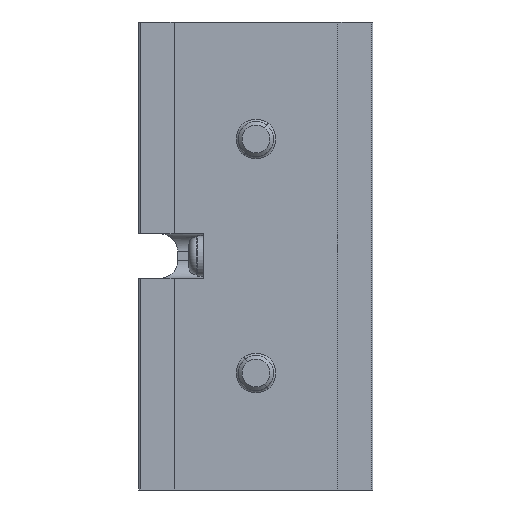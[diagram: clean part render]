
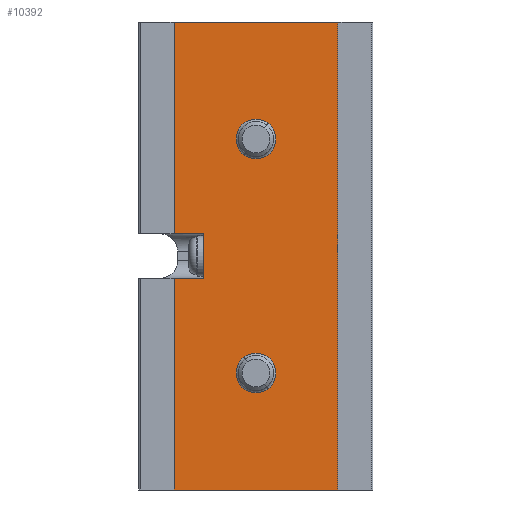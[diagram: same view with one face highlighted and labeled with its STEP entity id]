
A CAD part, front view. The second image highlights one B-rep face of the part: STEP entity #10392.
In plain terms, the highlighted planar face has unit normal (0, -1, 0).
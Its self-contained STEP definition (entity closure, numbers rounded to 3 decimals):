
#73 = VECTOR ( 'NONE', #5531, 1000. ) ;
#110 = EDGE_CURVE ( 'NONE', #7493, #1896, #6280, .T. ) ;
#632 = CARTESIAN_POINT ( 'NONE',  ( 3., 0.05, 40. ) ) ;
#743 = LINE ( 'NONE', #7516, #8837 ) ;
#745 = CARTESIAN_POINT ( 'NONE',  ( 10., 0.05, 8.3 ) ) ;
#780 = ORIENTED_EDGE ( 'NONE', *, *, #6305, .F. ) ;
#803 = DIRECTION ( 'NONE',  ( -1., 0., 0. ) ) ;
#1079 = LINE ( 'NONE', #4342, #6170 ) ;
#1086 = CARTESIAN_POINT ( 'NONE',  ( 3., 0.05, 21.9 ) ) ;
#1097 = AXIS2_PLACEMENT_3D ( 'NONE', #6689, #3205, #1670 ) ;
#1123 = EDGE_LOOP ( 'NONE', ( #9733, #6336 ) ) ;
#1254 = ORIENTED_EDGE ( 'NONE', *, *, #8952, .T. ) ;
#1305 = AXIS2_PLACEMENT_3D ( 'NONE', #9648, #1432, #3995 ) ;
#1432 = DIRECTION ( 'NONE',  ( 0., 1., 0. ) ) ;
#1447 = CARTESIAN_POINT ( 'NONE',  ( 5.5, 0.05, 18.1 ) ) ;
#1469 = AXIS2_PLACEMENT_3D ( 'NONE', #9573, #8165, #10521 ) ;
#1643 = EDGE_CURVE ( 'NONE', #10283, #8075, #2305, .T. ) ;
#1670 = DIRECTION ( 'NONE',  ( -1., 0., 0. ) ) ;
#1896 = VERTEX_POINT ( 'NONE', #3104 ) ;
#1936 = VERTEX_POINT ( 'NONE', #1447 ) ;
#2021 = DIRECTION ( 'NONE',  ( 1., 0., 0. ) ) ;
#2181 = DIRECTION ( 'NONE',  ( 1., 0., 0. ) ) ;
#2305 = CIRCLE ( 'NONE', #10208, 1.7 ) ;
#2341 = ORIENTED_EDGE ( 'NONE', *, *, #2469, .T. ) ;
#2373 = VERTEX_POINT ( 'NONE', #10028 ) ;
#2462 = CIRCLE ( 'NONE', #1097, 1.7 ) ;
#2469 = EDGE_CURVE ( 'NONE', #7493, #3089, #5178, .T. ) ;
#2585 = CARTESIAN_POINT ( 'NONE',  ( 3., 0.05, 0. ) ) ;
#2865 = CARTESIAN_POINT ( 'NONE',  ( 17., 0.05, 40. ) ) ;
#2871 = CARTESIAN_POINT ( 'NONE',  ( 3., 0.05, 40. ) ) ;
#2905 = CARTESIAN_POINT ( 'NONE',  ( 10., 0.05, 11.7 ) ) ;
#3089 = VERTEX_POINT ( 'NONE', #1086 ) ;
#3104 = CARTESIAN_POINT ( 'NONE',  ( 17., 0.05, 40. ) ) ;
#3115 = VERTEX_POINT ( 'NONE', #2905 ) ;
#3200 = FACE_BOUND ( 'NONE', #5256, .T. ) ;
#3205 = DIRECTION ( 'NONE',  ( 0., 1., 0. ) ) ;
#3234 = VERTEX_POINT ( 'NONE', #745 ) ;
#3295 = VECTOR ( 'NONE', #2021, 1000. ) ;
#3517 = AXIS2_PLACEMENT_3D ( 'NONE', #7811, #6325, #6135 ) ;
#3656 = VECTOR ( 'NONE', #8723, 1000. ) ;
#3959 = LINE ( 'NONE', #4072, #73 ) ;
#3995 = DIRECTION ( 'NONE',  ( -1., 0., 0. ) ) ;
#4048 = VERTEX_POINT ( 'NONE', #6326 ) ;
#4072 = CARTESIAN_POINT ( 'NONE',  ( 17., 0.05, 0. ) ) ;
#4284 = DIRECTION ( 'NONE',  ( -1., 0., 0. ) ) ;
#4329 = VECTOR ( 'NONE', #6125, 1000. ) ;
#4342 = CARTESIAN_POINT ( 'NONE',  ( 5.5, 0.05, 40. ) ) ;
#4443 = CARTESIAN_POINT ( 'NONE',  ( 10., 0.05, 31.7 ) ) ;
#4520 = ORIENTED_EDGE ( 'NONE', *, *, #8879, .F. ) ;
#4751 = VERTEX_POINT ( 'NONE', #4849 ) ;
#4849 = CARTESIAN_POINT ( 'NONE',  ( 17., 0.05, 0. ) ) ;
#4862 = ORIENTED_EDGE ( 'NONE', *, *, #9609, .F. ) ;
#4914 = ORIENTED_EDGE ( 'NONE', *, *, #110, .F. ) ;
#5031 = ORIENTED_EDGE ( 'NONE', *, *, #7152, .T. ) ;
#5145 = CARTESIAN_POINT ( 'NONE',  ( 10., 0.05, 30. ) ) ;
#5178 = LINE ( 'NONE', #8459, #5848 ) ;
#5256 = EDGE_LOOP ( 'NONE', ( #9411, #8787 ) ) ;
#5531 = DIRECTION ( 'NONE',  ( 1., 0., 0. ) ) ;
#5566 = FACE_BOUND ( 'NONE', #1123, .T. ) ;
#5838 = EDGE_CURVE ( 'NONE', #3115, #3234, #2462, .T. ) ;
#5848 = VECTOR ( 'NONE', #7749, 1000. ) ;
#6020 = LINE ( 'NONE', #8609, #3295 ) ;
#6030 = EDGE_LOOP ( 'NONE', ( #780, #4862, #6081, #1254, #5031, #4520, #4914, #2341 ) ) ;
#6081 = ORIENTED_EDGE ( 'NONE', *, *, #8919, .F. ) ;
#6125 = DIRECTION ( 'NONE',  ( 0., 0., -1. ) ) ;
#6135 = DIRECTION ( 'NONE',  ( -1., 0., 0. ) ) ;
#6170 = VECTOR ( 'NONE', #6969, 1000. ) ;
#6280 = LINE ( 'NONE', #2865, #9016 ) ;
#6305 = EDGE_CURVE ( 'NONE', #2373, #3089, #743, .T. ) ;
#6325 = DIRECTION ( 'NONE',  ( 0., 1., 0. ) ) ;
#6326 = CARTESIAN_POINT ( 'NONE',  ( 3., 0.05, 18.1 ) ) ;
#6336 = ORIENTED_EDGE ( 'NONE', *, *, #7705, .T. ) ;
#6689 = CARTESIAN_POINT ( 'NONE',  ( 10., 0.05, 10. ) ) ;
#6969 = DIRECTION ( 'NONE',  ( 0., 0., 1. ) ) ;
#7076 = CIRCLE ( 'NONE', #3517, 1.7 ) ;
#7152 = EDGE_CURVE ( 'NONE', #8462, #4751, #3959, .T. ) ;
#7493 = VERTEX_POINT ( 'NONE', #632 ) ;
#7516 = CARTESIAN_POINT ( 'NONE',  ( 17., 0.05, 21.9 ) ) ;
#7705 = EDGE_CURVE ( 'NONE', #8075, #10283, #7076, .T. ) ;
#7749 = DIRECTION ( 'NONE',  ( 0., 0., -1. ) ) ;
#7811 = CARTESIAN_POINT ( 'NONE',  ( 10., 0.05, 30. ) ) ;
#8075 = VERTEX_POINT ( 'NONE', #8710 ) ;
#8087 = PLANE ( 'NONE',  #1305 ) ;
#8165 = DIRECTION ( 'NONE',  ( 0., 1., 0. ) ) ;
#8459 = CARTESIAN_POINT ( 'NONE',  ( 3., 0.05, 40. ) ) ;
#8462 = VERTEX_POINT ( 'NONE', #2585 ) ;
#8609 = CARTESIAN_POINT ( 'NONE',  ( 17., 0.05, 18.1 ) ) ;
#8710 = CARTESIAN_POINT ( 'NONE',  ( 10., 0.05, 28.3 ) ) ;
#8723 = DIRECTION ( 'NONE',  ( 0., 0., -1. ) ) ;
#8787 = ORIENTED_EDGE ( 'NONE', *, *, #10193, .T. ) ;
#8837 = VECTOR ( 'NONE', #803, 1000. ) ;
#8879 = EDGE_CURVE ( 'NONE', #1896, #4751, #9477, .T. ) ;
#8919 = EDGE_CURVE ( 'NONE', #4048, #1936, #6020, .T. ) ;
#8952 = EDGE_CURVE ( 'NONE', #4048, #8462, #10228, .T. ) ;
#9016 = VECTOR ( 'NONE', #2181, 1000. ) ;
#9132 = DIRECTION ( 'NONE',  ( 0., 1., 0. ) ) ;
#9382 = CARTESIAN_POINT ( 'NONE',  ( 17., 0.05, 40. ) ) ;
#9411 = ORIENTED_EDGE ( 'NONE', *, *, #5838, .T. ) ;
#9477 = LINE ( 'NONE', #9382, #3656 ) ;
#9542 = CIRCLE ( 'NONE', #1469, 1.7 ) ;
#9563 = FACE_OUTER_BOUND ( 'NONE', #6030, .T. ) ;
#9573 = CARTESIAN_POINT ( 'NONE',  ( 10., 0.05, 10. ) ) ;
#9609 = EDGE_CURVE ( 'NONE', #1936, #2373, #1079, .T. ) ;
#9648 = CARTESIAN_POINT ( 'NONE',  ( 17., 0.05, 40. ) ) ;
#9733 = ORIENTED_EDGE ( 'NONE', *, *, #1643, .T. ) ;
#10028 = CARTESIAN_POINT ( 'NONE',  ( 5.5, 0.05, 21.9 ) ) ;
#10193 = EDGE_CURVE ( 'NONE', #3234, #3115, #9542, .T. ) ;
#10208 = AXIS2_PLACEMENT_3D ( 'NONE', #5145, #9132, #4284 ) ;
#10228 = LINE ( 'NONE', #2871, #4329 ) ;
#10283 = VERTEX_POINT ( 'NONE', #4443 ) ;
#10392 = ADVANCED_FACE ( 'NONE', ( #3200, #5566, #9563 ), #8087, .F. ) ;
#10521 = DIRECTION ( 'NONE',  ( -1., 0., 0. ) ) ;
